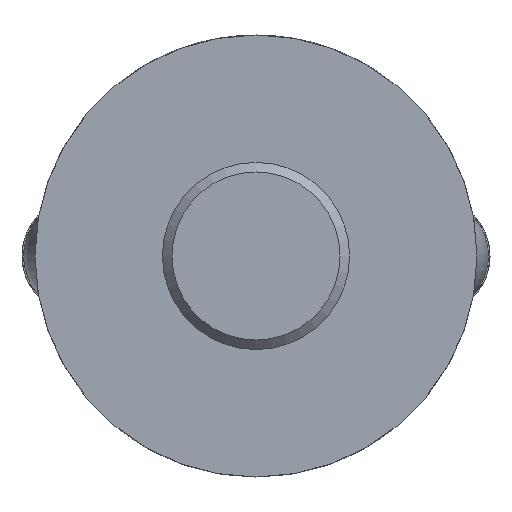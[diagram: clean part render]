
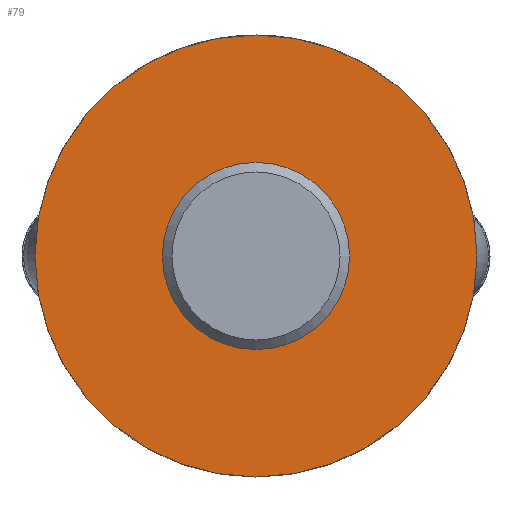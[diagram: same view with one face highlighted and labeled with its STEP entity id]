
A CAD part, front view. The second image highlights one B-rep face of the part: STEP entity #79.
In plain terms, the highlighted planar face has unit normal (0, -1, 0).
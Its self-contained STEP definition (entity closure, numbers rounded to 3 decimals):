
#79 = ADVANCED_FACE( '', ( #115, #116 ), #117, .F. );
#115 = FACE_BOUND( '', #186, .T. );
#116 = FACE_OUTER_BOUND( '', #187, .T. );
#117 = PLANE( '', #188 );
#186 = EDGE_LOOP( '', ( #276 ) );
#187 = EDGE_LOOP( '', ( #277 ) );
#188 = AXIS2_PLACEMENT_3D( '', #278, #279, #280 );
#276 = ORIENTED_EDGE( '', *, *, #464, .T. );
#277 = ORIENTED_EDGE( '', *, *, #465, .T. );
#278 = CARTESIAN_POINT( '', ( 85., 0., 0. ) );
#279 = DIRECTION( '', ( 0., 1., 0. ) );
#280 = DIRECTION( '', ( 0., 0., 1. ) );
#464 = EDGE_CURVE( '', #539, #539, #540, .T. );
#465 = EDGE_CURVE( '', #541, #541, #542, .T. );
#539 = VERTEX_POINT( '', #894 );
#540 = CIRCLE( '', #895, 36. );
#541 = VERTEX_POINT( '', #896 );
#542 = CIRCLE( '', #897, 85. );
#894 = CARTESIAN_POINT( '', ( 0., 0., 36. ) );
#895 = AXIS2_PLACEMENT_3D( '', #1246, #1247, #1248 );
#896 = CARTESIAN_POINT( '', ( 0., 0., -85. ) );
#897 = AXIS2_PLACEMENT_3D( '', #1249, #1250, #1251 );
#1246 = CARTESIAN_POINT( '', ( 0., 0., 0. ) );
#1247 = DIRECTION( '', ( 0., 1., 0. ) );
#1248 = DIRECTION( '', ( 0., 0., 1. ) );
#1249 = CARTESIAN_POINT( '', ( 0., 0., 0. ) );
#1250 = DIRECTION( '', ( 0., -1., 0. ) );
#1251 = DIRECTION( '', ( 0., 0., -1. ) );
